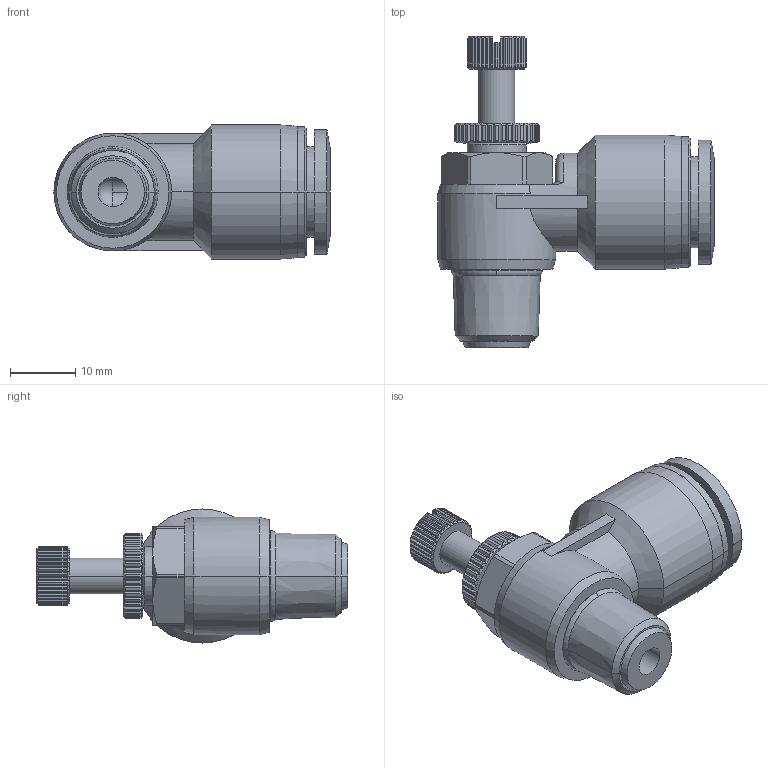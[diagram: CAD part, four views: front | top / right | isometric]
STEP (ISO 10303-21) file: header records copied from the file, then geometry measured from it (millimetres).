
FILE_DESCRIPTION (( 'STEP AP203' ), '1' );
FILE_NAME ('SCL12-02.STEP', '2020-05-12T15:38:18', ( '' ), ( '' ), 'SwSTEP 2.0', 'SolidWorks 2019', '' );
FILE_SCHEMA (( 'CONFIG_CONTROL_DESIGN' ));
Length unit declared in the file: millimetre
Products named in the file (1): SCL12-02
Bounding box: 42.25 x 47.6 x 20.5 mm (x, y, z)
Volume: 10533.6 mm3; surface area: 6000.9 mm2
Topology: 1 solids, 1 shells, 423 faces, 1038 edges, 627 vertices
Faces by surface type: plane 188, cone 114, cylinder 113, bspline 4, torus 3, sphere 1
Entity records: 12501 total; most frequent: CARTESIAN_POINT 3276, ORIENTED_EDGE 2074, DIRECTION 1880, EDGE_CURVE 1037, AXIS2_PLACEMENT_3D 773, VERTEX_POINT 627, EDGE_LOOP 436, ADVANCED_FACE 423
